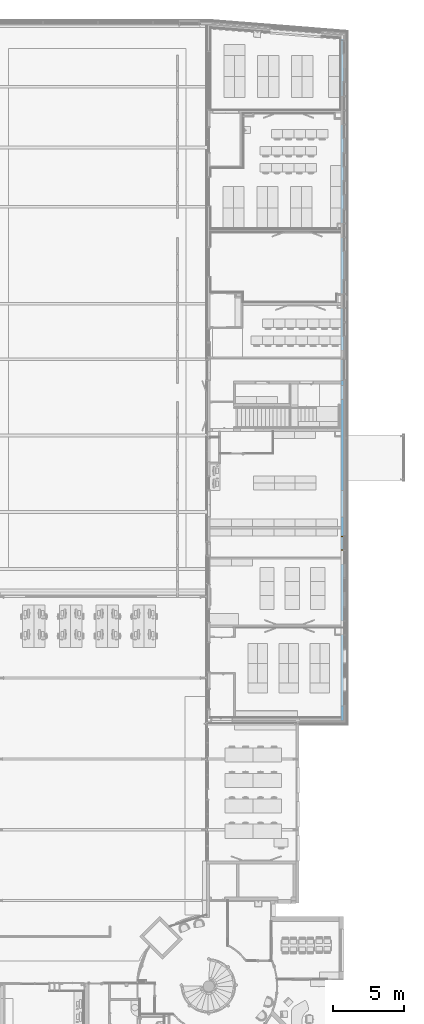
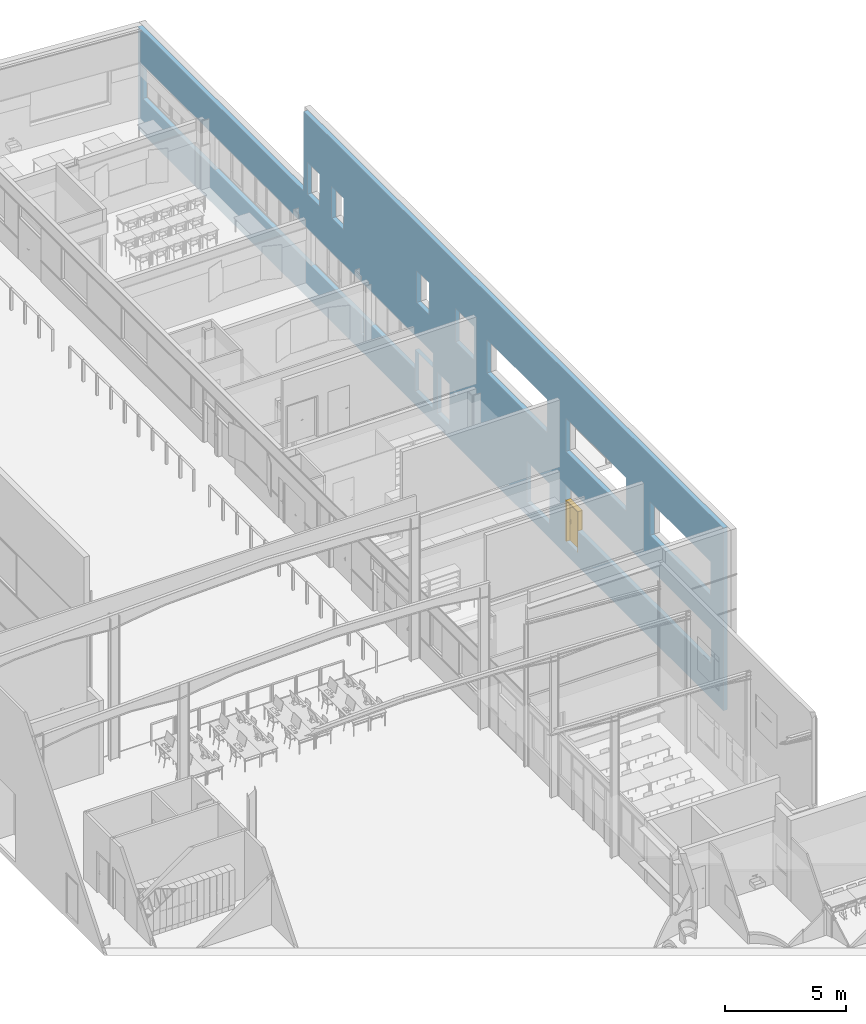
# One storey, part 102 of 137: 1 door, 4 openings, plus 1 element that does not belong to this part.
"""IFC2X3 building model written with IfcOpenShell, lengths in centimetres."""

from ifc_helpers import new_model, entity, si_unit, converted_unit, derived_unit, direction, frame, frame_2d, origin, place, context, subcontext, project, spatial, rectangle, extrude, faceted_brep, source, transform, mapped, material, material_list, type_object, type_shapes, element, fill, save


model = new_model("IFC2X3")

# Units and contexts
model_context = context("Model", 3, precision=0.001, world=origin(), true_north=direction((6.12303176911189e-17, 1.0)))
body_context = subcontext(model_context, "Body", "Model", "MODEL_VIEW")
ifc_project = project(units=[si_unit("LENGTHUNIT", "METRE", prefix="CENTI"), si_unit("AREAUNIT", "SQUARE_METRE"), si_unit("VOLUMEUNIT", "CUBIC_METRE"), converted_unit("PLANEANGLEUNIT", "DEGREE", entity("IfcRatioMeasure", 0.0174532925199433), si_unit("PLANEANGLEUNIT", "RADIAN"), dimensions=[0, 0, 0, 0, 0, 0, 0]), si_unit("MASSUNIT", "GRAM", prefix="KILO"), si_unit("TIMEUNIT", "SECOND"), si_unit("FREQUENCYUNIT", "HERTZ"), si_unit("THERMODYNAMICTEMPERATUREUNIT", "DEGREE_CELSIUS"), derived_unit("THERMALTRANSMITTANCEUNIT", [(si_unit("MASSUNIT", "GRAM", prefix="KILO"), 1), (si_unit("THERMODYNAMICTEMPERATUREUNIT", "KELVIN"), -1), (si_unit("TIMEUNIT", "SECOND"), -3)]), derived_unit("VOLUMETRICFLOWRATEUNIT", [(si_unit("LENGTHUNIT", "METRE"), 3), (si_unit("TIMEUNIT", "SECOND"), -1)]), si_unit("ELECTRICCURRENTUNIT", "AMPERE"), si_unit("ELECTRICVOLTAGEUNIT", "VOLT"), si_unit("POWERUNIT", "WATT"), si_unit("FORCEUNIT", "NEWTON", prefix="KILO"), si_unit("ILLUMINANCEUNIT", "LUX"), si_unit("LUMINOUSFLUXUNIT", "LUMEN"), si_unit("LUMINOUSINTENSITYUNIT", "CANDELA"), derived_unit("USERDEFINED", [(si_unit("MASSUNIT", "GRAM", prefix="KILO"), -1), (si_unit("LENGTHUNIT", "METRE"), -2), (si_unit("TIMEUNIT", "SECOND"), 3), (si_unit("LUMINOUSFLUXUNIT", "LUMEN"), 1)]), derived_unit("LINEARVELOCITYUNIT", [(si_unit("LENGTHUNIT", "METRE"), 1), (si_unit("TIMEUNIT", "SECOND"), -1)]), si_unit("PRESSUREUNIT", "PASCAL"), derived_unit("USERDEFINED", [(si_unit("LENGTHUNIT", "METRE"), -2), (si_unit("MASSUNIT", "GRAM", prefix="KILO"), 1), (si_unit("TIMEUNIT", "SECOND"), -2)])], contexts=[model_context])

# Site, building, storey
site_placement = place(None, frame((8.62739174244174, -249.285249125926, 0.0)))
site = spatial("IfcSite", under=ifc_project, at=site_placement, Name="Default", CompositionType="ELEMENT")
building_placement = place(site_placement, origin())
building = spatial("IfcBuilding", under=site, at=building_placement, CompositionType="ELEMENT")
storey_placement = place(building_placement, origin())
storey = spatial("IfcBuildingStorey", under=building, at=storey_placement, Name="RDC", CompositionType="ELEMENT", Elevation=-8.82465566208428e-11)

# Wall, openings, door
ifc_material_1 = material(Name="Béton, coulé sur place, gris")
wall_type = type_object("IfcWallType", Name="Mur de base:BET 21", PredefinedType="NOTDEFINED")
wall_placement = place(storey_placement, frame((3988.90482781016, 2634.98020806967, -70.0), z_axis=(0.0, 0.0, 1.0), x_axis=(0.0, 1.0, 0.0)))
wall = element("IfcWall", 1, at=wall_placement, inside=storey, type_object=wall_type, material=ifc_material_1, Name="Mur de base:BET 21", ObjectType="Mur de base:BET 21", context=body_context, shape_type="Brep", body=[
    faceted_brep([(4814.40916101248, -10.0, 350.0), (4814.40916101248, -10.0, 180.0), (2558.0, -10.0, 180.0), (2558.0, -10.0, 278.0), (2407.0, -10.0, 278.0), (2407.0, -10.0, 350.0), (2223.0, -10.0, 691.0), (2223.0, -10.0, 521.0), (2068.0, -10.0, 521.0), (2068.0, -10.0, 691.0), (2236.48822441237, -10.0, 273.988224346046), (2236.48822441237, -10.0, 253.988224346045), (2205.51572422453, -10.0, 253.988224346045), (2205.51572422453, -10.0, 273.988224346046), (2408.0, -10.0, 70.0), (2408.0, -10.0, 85.0), (2408.0, -10.0, 277.0), (2557.0, -10.0, 277.0), (2557.0, -10.0, 85.0), (2557.0, -10.0, 70.0), (2372.0, -10.0, 277.499999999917), (2372.0, -10.0, 85.0), (2372.0, -10.0, 70.0), (2272.0, -10.0, 70.0), (2272.0, -10.0, 85.0), (2272.0, -10.0, 277.499999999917), (1629.20498529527, -10.0, 277.0), (1629.20498529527, -10.0, 85.0), (1629.20498529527, -10.0, 70.0), (1440.20498529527, -10.0, 70.0), (1440.20498529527, -10.0, 85.0), (1440.20498529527, -10.0, 277.0), (1305.204985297, -10.0, 277.499999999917), (1305.204985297, -10.0, 85.0), (1305.204985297, -10.0, 70.0), (1205.204985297, -10.0, 70.0), (1205.204985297, -10.0, 85.0), (1205.204985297, -10.0, 180.0), (104.204985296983, -10.0, 180.0), (104.204985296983, -10.0, 350.0), (1304.20498529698, -10.0, 350.0), (1304.20498529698, -10.0, 277.499999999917), (1961.60249267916, -10.0, 691.0), (1961.60249267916, -10.0, 521.0), (1461.60249267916, -10.0, 521.0), (1461.60249267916, -10.0, 691.0), (1306.70498529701, -10.0, 691.0), (1306.70498529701, -10.0, 521.0), (806.704985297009, -10.0, 521.0), (806.704985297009, -10.0, 691.0), (606.704985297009, -10.0, 691.0), (606.704985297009, -10.0, 521.0), (106.704985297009, -10.0, 521.0), (106.704985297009, -10.0, 691.0), (3448.0117757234, -10.0, 686.011775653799), (3448.0117757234, -10.0, 525.011775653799), (3348.0117757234, -10.0, 525.011775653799), (3348.0117757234, -10.0, 686.011775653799), (3006.0, -10.0, 170.207427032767), (3006.0, -10.0, 89.8417534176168), (2975.0, -10.0, 89.8417534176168), (2975.0, -10.0, 170.207427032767), (2543.0, -10.0, 686.5117756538), (2543.0, -10.0, 525.511775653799), (2443.0, -10.0, 525.511775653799), (2443.0, -10.0, 686.5117756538), (3480.0, -10.0, 925.0), (3448.0, -10.0, 925.0), (32.0, -10.0, 925.0), (0.0, -10.0, 925.0), (0.0, -10.0, 0.0), (4853.30717049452, -10.0, 0.0), (4853.30717049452, -10.0, 521.0), (3507.0, -10.0, 521.0), (3480.0, -10.0, 521.0), (3248.0117757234, -10.0, 686.011775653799), (3248.0117757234, -10.0, 525.011775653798), (3148.0117757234, -10.0, 525.011775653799), (3148.0117757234, -10.0, 686.011775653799), (2408.0, 10.0, 277.0), (2408.0, 10.0, 70.0), (2557.0, 10.0, 70.0), (2557.0, 10.0, 277.0), (2372.0, 10.0, 70.0), (2372.0, 10.0, 277.499999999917), (2272.0, 10.0, 277.499999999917), (2272.0, 10.0, 70.0), (1629.20498529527, 10.0, 70.0), (1629.20498529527, 10.0, 277.0), (1440.20498529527, 10.0, 277.0), (1440.20498529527, 10.0, 70.0), (1305.204985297, 10.0, 70.0), (1305.204985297, 10.0, 277.499999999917), (1304.20498529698, 10.0, 277.499999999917), (1304.20498529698, 10.0, 350.0), (104.204985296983, 10.0, 350.0), (104.204985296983, 10.0, 180.0), (1205.204985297, 10.0, 180.0), (1205.204985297, 10.0, 70.0), (4814.40916101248, 10.0, 180.0), (4814.40916101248, 10.0, 350.0), (2407.0, 10.0, 350.0), (2407.0, 10.0, 278.0), (2558.0, 10.0, 278.0), (2558.0, 10.0, 180.0), (2223.0, 10.0, 521.0), (2223.0, 10.0, 691.0), (2068.0, 10.0, 691.0), (2068.0, 10.0, 521.0), (0.0, 10.0, 925.0), (20.0, 10.0, 925.0), (3460.0, 10.0, 925.0), (3480.0, 10.0, 925.0), (3480.0, 10.0, 521.0), (4834.82616616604, 10.0, 521.0), (4854.88859101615, 10.0, 521.0), (4854.88859101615, 10.0, 0.0), (4834.82616616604, 10.0, 0.0), (2960.0, 10.0, 0.0), (2940.0, 10.0, 0.0), (2403.0, 10.0, 0.0), (2383.0, 10.0, 0.0), (2068.0, 10.0, 0.0), (2048.0, 10.0, 0.0), (1375.20498529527, 10.0, 0.0), (1355.20498529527, 10.0, 0.0), (0.0, 10.0, 0.0), (2236.48822441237, 10.0, 253.988224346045), (2236.48822441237, 10.0, 273.988224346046), (2205.51572422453, 10.0, 273.988224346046), (2205.51572422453, 10.0, 253.988224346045), (1961.60249267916, 10.0, 521.0), (1961.60249267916, 10.0, 691.0), (1461.60249267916, 10.0, 691.0), (1461.60249267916, 10.0, 521.0), (1306.70498529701, 10.0, 521.0), (1306.70498529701, 10.0, 691.0), (806.704985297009, 10.0, 691.0), (806.704985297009, 10.0, 521.0), (606.704985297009, 10.0, 521.0), (606.704985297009, 10.0, 691.0), (106.704985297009, 10.0, 691.0), (106.704985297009, 10.0, 521.0), (3448.0117757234, 10.0, 525.011775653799), (3448.0117757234, 10.0, 686.011775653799), (3348.0117757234, 10.0, 686.011775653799), (3348.0117757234, 10.0, 525.011775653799), (3006.0, 10.0, 89.8417534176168), (3006.0, 10.0, 170.207427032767), (2975.0, 10.0, 170.207427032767), (2975.0, 10.0, 89.8417534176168), (2543.0, 10.0, 525.511775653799), (2543.0, 10.0, 686.5117756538), (2443.0, 10.0, 686.5117756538), (2443.0, 10.0, 525.511775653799), (3248.0117757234, 10.0, 525.011775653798), (3248.0117757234, 10.0, 686.011775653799), (3148.0117757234, 10.0, 686.011775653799), (3148.0117757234, 10.0, 525.011775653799)], [[[0, 1, 2, 3, 4, 5], [6, 7, 8, 9], [10, 11, 12, 13], [14, 15, 16, 17, 18, 19], [20, 21, 22, 23, 24, 25], [26, 27, 28, 29, 30, 31], [32, 33, 34, 35, 36, 37, 38, 39, 40, 41], [42, 43, 44, 45], [46, 47, 48, 49], [50, 51, 52, 53], [54, 55, 56, 57], [58, 59, 60, 61], [62, 63, 64, 65], [66, 67, 68, 69, 70, 71, 72, 73, 74], [75, 76, 77, 78]], [[79, 80, 81, 82], [83, 84, 85, 86], [87, 88, 89, 90], [91, 92, 93, 94, 95, 96, 97, 98], [99, 100, 101, 102, 103, 104], [105, 106, 107, 108], [109, 110, 111, 112, 113, 114, 115, 116, 117, 118, 119, 120, 121, 122, 123, 124, 125, 126], [127, 128, 129, 130], [131, 132, 133, 134], [135, 136, 137, 138], [139, 140, 141, 142], [143, 144, 145, 146], [147, 148, 149, 150], [151, 152, 153, 154], [155, 156, 157, 158]], [[14, 80, 79, 16, 15]], [[16, 79, 82, 17]], [[81, 19, 18, 17, 82]], [[80, 14, 19, 81]], [[83, 22, 21, 20, 84]], [[84, 20, 25, 85]], [[23, 86, 85, 25, 24]], [[22, 83, 86, 23]], [[87, 28, 27, 26, 88]], [[88, 26, 31, 89]], [[29, 90, 89, 31, 30]], [[28, 87, 90, 29]], [[35, 98, 97, 37, 36]], [[92, 32, 41, 93]], [[91, 34, 33, 32, 92]], [[98, 35, 34, 91]], [[69, 68, 67, 66, 112, 111, 110, 109]], [[70, 69, 109, 126]], [[74, 73, 72, 115, 114, 113]], [[66, 74, 113, 112]], [[99, 1, 0, 100]], [[100, 0, 5, 101]], [[101, 5, 4, 102]], [[102, 4, 3, 103]], [[40, 94, 93, 41]], [[94, 40, 39, 95]], [[95, 39, 38, 96]], [[96, 38, 37, 97]], [[103, 3, 2, 104]], [[1, 99, 104, 2]], [[105, 7, 6, 106]], [[106, 6, 9, 107]], [[107, 9, 8, 108]], [[7, 105, 108, 8]], [[11, 10, 128, 127]], [[12, 11, 127, 130]], [[13, 12, 130, 129]], [[10, 13, 129, 128]], [[71, 70, 126, 125, 124, 123, 122, 121, 120, 119, 118, 117, 116]], [[131, 43, 42, 132]], [[132, 42, 45, 133]], [[133, 45, 44, 134]], [[43, 131, 134, 44]], [[135, 47, 46, 136]], [[136, 46, 49, 137]], [[137, 49, 48, 138]], [[47, 135, 138, 48]], [[139, 51, 50, 140]], [[140, 50, 53, 141]], [[141, 53, 52, 142]], [[51, 139, 142, 52]], [[72, 71, 116, 115]], [[55, 54, 144, 143]], [[56, 55, 143, 146]], [[57, 56, 146, 145]], [[54, 57, 145, 144]], [[59, 58, 148, 147]], [[60, 59, 147, 150]], [[61, 60, 150, 149]], [[58, 61, 149, 148]], [[63, 62, 152, 151]], [[64, 63, 151, 154]], [[65, 64, 154, 153]], [[62, 65, 153, 152]], [[76, 75, 156, 155]], [[77, 76, 155, 158]], [[78, 77, 158, 157]], [[75, 78, 157, 156]]], outer=[[False, False, False, False, False, False, False, False, False, False, False, False, False, True, False], [False, False, False, False, False, False, True, False, False, False, False, False, False, False, False], [True], [True], [True], [True], [True], [True], [True], [True], [True], [True], [True], [True], [True], [True], [True], [True], [True], [True], [True], [True], [True], [True], [True], [True], [True], [True], [True], [True], [True], [True], [True], [True], [True], [True], [True], [True], [True], [True], [True], [True], [True], [True], [True], [True], [True], [True], [True], [True], [True], [True], [True], [True], [True], [True], [True], [True], [True], [True], [True], [True], [True], [True], [True], [True], [True], [True], [True], [True]]),
])
opening_1_placement = place(wall_placement, frame((2557.0, 10.0, 70.0)))
element("IfcOpeningElement", 2, at=opening_1_placement, cuts=wall, Name="Tierce(R)_bois_mu:143 x 204 cm:1", ObjectType="Opening", context=body_context, shape_type="SweptSolid", body=[
    extrude(rectangle(XDim=206.999999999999, YDim=149.0, at=frame_2d((103.499999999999, 74.4999999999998), x_axis=(1.0, 0.0))), frame((0.0, 0.0, 0.0), z_axis=(0.0, -1.0, 0.0), x_axis=(0.0, 0.0, 1.0)), (0.0, 0.0, 1.0), 20.0),
])
opening_2_placement = place(wall_placement, frame((2372.0, 10.0, 70.0)))
element("IfcOpeningElement", 3, at=opening_2_placement, cuts=wall, Name="Simple(R)_bois_mu:93 x 204 cm:1", ObjectType="Opening", context=body_context, shape_type="SweptSolid", body=[
    extrude(rectangle(XDim=207.499999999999, YDim=99.9999999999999, at=frame_2d((103.749999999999, 49.9999999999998), x_axis=(1.0, 0.0))), frame((0.0, 0.0, 0.0), z_axis=(0.0, -1.0, 0.0), x_axis=(0.0, 0.0, 1.0)), (0.0, 0.0, 1.0), 20.0),
])
opening_3_placement = place(wall_placement, frame((1629.20498529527, 10.0, 70.0)))
element("IfcOpeningElement", 4, at=opening_3_placement, cuts=wall, Name="Double(R)_bois_mu:183 x 204 cm:1", ObjectType="Opening", context=body_context, shape_type="SweptSolid", body=[
    extrude(rectangle(XDim=206.999999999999, YDim=189.0, at=frame_2d((103.499999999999, 94.5000000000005), x_axis=(1.0, 0.0))), frame((0.0, 0.0, 0.0), z_axis=(0.0, -1.0, 0.0), x_axis=(0.0, 0.0, 1.0)), (0.0, 0.0, 1.0), 20.0),
])
opening_4_placement = place(wall_placement, frame((1305.204985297, 10.0, 70.0)))
opening_4 = element("IfcOpeningElement", 5, at=opening_4_placement, cuts=wall, Name="Simple(R)_bois_mu:93 x 204 cm:1", ObjectType="Opening", context=body_context, shape_type="SweptSolid", body=[
    extrude(rectangle(XDim=207.499999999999, YDim=99.9999999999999, at=frame_2d((103.749999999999, 50.0), x_axis=(1.0, 0.0))), frame((0.0, 0.0, 0.0), z_axis=(0.0, -1.0, 0.0), x_axis=(0.0, 0.0, 1.0)), (0.0, 0.0, 1.0), 20.0),
])
ifc_material_2 = material(Name="Porte - Poignée")
ifc_material_3 = material(Name="Porte - Cadre")
ifc_material_4 = material(Name="Porte - Panneau")
ifc_material_list_1 = material_list([ifc_material_2, ifc_material_3, ifc_material_4])
ifc_material_list_2 = material_list([ifc_material_2, ifc_material_3, ifc_material_4])
door_style = type_object("IfcDoorStyle", Name="93 x 204 cm", ConstructionType="NOTDEFINED", OperationType="SINGLE_SWING_LEFT", ParameterTakesPrecedence=False, Sizeable=False, material=ifc_material_list_2)
shared_shape = source(origin(), body_context, "Body", "Brep", [
    faceted_brep([(92.2025298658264, 3.69999999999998, 100.778044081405), (91.7974701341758, 3.69999999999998, 100.778044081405), (91.3999999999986, 3.69999999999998, 100.699999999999), (91.4000000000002, 3.69999999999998, 99.3000000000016), (91.7974701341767, 3.69999999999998, 99.2219559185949), (92.2025298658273, 3.69999999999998, 99.2219559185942), (92.6000000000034, 3.69999999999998, 99.2999999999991), (92.600000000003, 3.69999999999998, 100.699999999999), (91.3999999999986, 5.94852045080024, 100.699999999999), (91.3999999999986, 5.94852045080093, 99.3000000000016), (91.7974701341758, 6.1131579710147, 100.778044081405), (92.2025298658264, 6.2809392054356, 100.778044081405), (90.5838906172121, 7.89957845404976, 100.778044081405), (90.4161093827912, 7.49451872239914, 100.778044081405), (82.0793122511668, 7.49451872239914, 100.778044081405), (81.911531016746, 7.89957845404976, 100.778044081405), (81.1451046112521, 7.13315204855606, 100.778044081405), (81.4315250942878, 6.84673156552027, 100.778044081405), (92.600000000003, 6.44557672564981, 100.699999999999), (92.6000000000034, 6.44557672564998, 99.2999999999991), (92.2025298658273, 6.28093920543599, 99.2219559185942), (91.7974701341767, 6.11315797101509, 99.2219559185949), (90.4161093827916, 7.49451872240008, 99.2219559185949), (90.5838906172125, 7.8995784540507, 99.2219559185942), (81.9115310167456, 7.8995784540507, 99.2219559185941), (82.0793122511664, 7.49451872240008, 99.2219559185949), (81.4315250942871, 6.84673156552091, 99.2219559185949), (81.1451046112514, 7.13315204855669, 99.2219559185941), (90.2514718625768, 7.09704858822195, 100.699999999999), (90.2514718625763, 7.09704858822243, 99.3000000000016), (90.7485281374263, 8.29704858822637, 100.699999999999), (90.7485281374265, 8.29704858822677, 99.2999999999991), (86.247710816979, 7.09704858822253, 100.699999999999), (82.2439497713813, 7.09704858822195, 100.699999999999), (82.2439497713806, 7.09704858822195, 99.3000000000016), (86.247710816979, 7.09704858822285, 99.3000000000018), (86.2477108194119, 7.71249275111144, 100.787811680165), (85.7399422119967, 8.29704858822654, 100.699999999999), (81.7468934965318, 8.29704858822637, 100.699999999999), (86.7554791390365, 8.29704858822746, 99.2999999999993), (81.7468934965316, 8.29704858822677, 99.2999999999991), (86.2477107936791, 7.71249274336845, 99.2121883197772), (80.8640507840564, 7.41420587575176, 100.699999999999), (80.8640507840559, 7.41420587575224, 99.2999999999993), (81.7125789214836, 6.5656777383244, 99.3000000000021), (81.7125789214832, 6.56567773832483, 100.699999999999)], [[[0, 1, 2, 3, 4, 5, 6, 7]], [[8, 9, 3, 2]], [[1, 10, 8, 2]], [[1, 0, 11, 12, 13, 10]], [[14, 15, 16, 17]], [[7, 18, 11, 0]], [[18, 7, 6, 19]], [[6, 5, 20, 19]], [[5, 4, 21, 22, 23, 20]], [[24, 25, 26, 27]], [[4, 3, 9, 21]], [[28, 29, 9, 8]], [[8, 10, 13, 28]], [[18, 30, 12, 11]], [[31, 30, 18, 19]], [[19, 20, 23, 31]], [[21, 9, 29, 22]], [[29, 28, 32, 33, 34, 35]], [[36, 32, 13]], [[37, 38, 15]], [[37, 12, 30]], [[36, 12, 37]], [[14, 32, 36]], [[36, 15, 14]], [[28, 13, 32]], [[32, 14, 33]], [[12, 36, 13]], [[15, 36, 37]], [[30, 31, 39, 40, 38, 37]], [[23, 41, 39]], [[24, 39, 41]], [[39, 31, 23]], [[39, 24, 40]], [[22, 35, 41]], [[41, 23, 22]], [[41, 35, 25]], [[35, 22, 29]], [[34, 25, 35]], [[24, 41, 25]], [[17, 16, 42, 43, 27, 26, 44, 45]], [[45, 44, 34, 33]], [[33, 14, 17, 45]], [[15, 38, 42, 16]], [[43, 42, 38, 40]], [[24, 27, 43, 40]], [[34, 44, 26, 25]]]),
    faceted_brep([(91.7974701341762, -1.30000000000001, 100.778044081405), (92.2025298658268, -1.30000000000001, 100.778044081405), (92.6000000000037, -1.30000000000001, 100.699999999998), (92.6000000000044, -1.30000000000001, 99.2999999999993), (92.2025298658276, -1.30000000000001, 99.2219559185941), (91.797470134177, -1.30000000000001, 99.2219559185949), (91.3999999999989, -1.30000000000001, 99.3000000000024), (91.3999999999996, -1.30000000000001, 100.699999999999), (92.2025298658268, -3.90045754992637, 100.778044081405), (92.6000000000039, -4.06509507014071, 100.699999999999), (91.7974701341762, -3.73267631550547, 100.778044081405), (90.4298602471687, -5.10028620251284, 100.778044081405), (90.5976414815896, -5.50534593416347, 100.778044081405), (81.9142453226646, -5.50534593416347, 100.778044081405), (82.0820265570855, -5.10028620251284, 100.778044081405), (81.4342394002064, -4.4524990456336, 100.778044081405), (81.1478189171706, -4.73891952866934, 100.778044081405), (91.3999999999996, -3.56803879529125, 100.699999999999), (91.3999999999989, -3.56803879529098, 99.3000000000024), (91.797470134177, -3.7326763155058, 99.2219559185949), (92.2025298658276, -3.9004575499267, 99.2219559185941), (90.5976414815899, -5.50534593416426, 99.2219559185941), (90.429860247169, -5.10028620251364, 99.2219559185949), (82.0820265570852, -5.10028620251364, 99.2219559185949), (81.9142453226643, -5.50534593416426, 99.2219559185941), (81.14781891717, -4.73891952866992, 99.2219559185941), (81.4342394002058, -4.45249904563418, 99.2219559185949), (92.6000000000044, -4.06509507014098, 99.2999999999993), (90.762279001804, -5.90281606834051, 100.699999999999), (90.2652227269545, -4.70281606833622, 100.699999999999), (90.2652227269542, -4.70281606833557, 99.3000000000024), (90.7622790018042, -5.90281606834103, 99.2999999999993), (86.2559433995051, -5.31828027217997, 100.787811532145), (86.769230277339, -5.90281606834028, 100.699999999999), (81.7496078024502, -5.90281606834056, 100.699999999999), (86.255943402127, -4.70281606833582, 100.699999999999), (82.2466640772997, -4.70281606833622, 100.699999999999), (86.2559436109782, -4.70281606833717, 99.3000000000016), (82.2466640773, -4.70281606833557, 99.3000000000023), (86.2559434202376, -5.31828027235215, 99.2121884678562), (85.7426572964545, -5.90281606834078, 99.2999999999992), (81.74960780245, -5.90281606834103, 99.2999999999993), (81.7152932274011, -4.17144521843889, 99.3000000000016), (80.8667650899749, -5.01997335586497, 99.2999999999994), (80.8667650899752, -5.01997335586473, 100.699999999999), (81.7152932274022, -4.17144521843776, 100.699999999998)], [[[0, 1, 2, 3, 4, 5, 6, 7]], [[2, 1, 8, 9]], [[1, 0, 10, 11, 12, 8]], [[13, 14, 15, 16]], [[0, 7, 17, 10]], [[18, 17, 7, 6]], [[5, 19, 18, 6]], [[5, 4, 20, 21, 22, 19]], [[23, 24, 25, 26]], [[3, 27, 20, 4]], [[9, 27, 3, 2]], [[9, 8, 12, 28]], [[10, 17, 29, 11]], [[30, 29, 17, 18]], [[18, 19, 22, 30]], [[20, 27, 31, 21]], [[28, 31, 27, 9]], [[12, 32, 33]], [[13, 33, 32]], [[33, 28, 12]], [[33, 13, 34]], [[11, 35, 32]], [[32, 12, 11]], [[32, 35, 14]], [[35, 11, 29]], [[36, 14, 35]], [[13, 32, 14]], [[29, 30, 37, 38, 36, 35]], [[39, 37, 22]], [[40, 41, 24]], [[40, 21, 31]], [[39, 21, 40]], [[23, 37, 39]], [[39, 24, 23]], [[30, 22, 37]], [[37, 23, 38]], [[21, 39, 22]], [[24, 39, 40]], [[31, 28, 33, 34, 41, 40]], [[42, 26, 25, 43, 44, 16, 15, 45]], [[13, 16, 44, 34]], [[36, 45, 15, 14]], [[42, 45, 36, 38]], [[38, 23, 26, 42]], [[24, 41, 43, 25]], [[44, 43, 41, 34]]]),
    faceted_brep([(92.0, 3.19999999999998, 86.4641016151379), (93.0352761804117, 3.19999999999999, 86.6003983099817), (94.0, 3.19999999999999, 87.0), (94.0, 3.19999999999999, 108.0), (93.0352761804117, 3.19999999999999, 108.399601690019), (92.0, 3.19999999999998, 108.535898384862), (90.9647238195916, 3.19999999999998, 108.399601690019), (90.0, 3.19999999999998, 108.0), (90.0, 3.19999999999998, 87.0), (90.9647238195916, 3.19999999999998, 86.6003983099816), (92.0, 3.69999999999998, 108.535898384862), (93.0352761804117, 3.69999999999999, 108.399601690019), (94.0, 3.69999999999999, 108.0), (94.0, 3.69999999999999, 87.0), (93.0352761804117, 3.69999999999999, 86.6003983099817), (92.0, 3.69999999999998, 86.4641016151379), (90.9647238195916, 3.69999999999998, 86.6003983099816), (90.0, 3.69999999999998, 87.0), (90.0, 3.69999999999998, 108.0), (90.9647238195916, 3.69999999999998, 108.399601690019)], [[[0, 1, 2, 3, 4, 5, 6, 7, 8, 9]], [[10, 11, 12, 13, 14, 15, 16, 17, 18, 19]], [[6, 19, 18, 7]], [[5, 10, 19, 6]], [[4, 11, 10, 5]], [[4, 3, 12, 11]], [[12, 3, 2, 13]], [[1, 14, 13, 2]], [[0, 15, 14, 1]], [[9, 16, 15, 0]], [[9, 8, 17, 16]], [[17, 8, 7, 18]]]),
    faceted_brep([(92.0, -1.30000000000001, 86.4641016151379), (93.0352761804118, -1.30000000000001, 86.6003983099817), (94.0, -1.30000000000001, 87.0), (94.0, -1.30000000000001, 108.0), (93.0352761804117, -1.30000000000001, 108.399601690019), (92.0, -1.30000000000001, 108.535898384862), (90.9647238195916, -1.30000000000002, 108.399601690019), (90.0, -1.30000000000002, 108.0), (90.0, -1.30000000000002, 87.0), (90.9647238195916, -1.30000000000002, 86.6003983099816), (94.0, -0.800000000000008, 108.0), (94.0, -0.800000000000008, 87.0), (93.0352761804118, -0.800000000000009, 86.6003983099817), (92.0, -0.800000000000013, 86.4641016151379), (90.9647238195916, -0.800000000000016, 86.6003983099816), (90.0, -0.800000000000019, 87.0), (90.0, -0.800000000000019, 108.0), (90.9647238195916, -0.800000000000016, 108.399601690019), (92.0, -0.800000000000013, 108.535898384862), (93.0352761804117, -0.800000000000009, 108.399601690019)], [[[0, 1, 2, 3, 4, 5, 6, 7, 8, 9]], [[10, 11, 12, 13, 14, 15, 16, 17, 18, 19]], [[1, 12, 11, 2]], [[0, 13, 12, 1]], [[9, 14, 13, 0]], [[9, 8, 15, 14]], [[15, 8, 7, 16]], [[6, 17, 16, 7]], [[5, 18, 17, 6]], [[4, 19, 18, 5]], [[4, 3, 10, 19]], [[10, 3, 2, 11]]]),
    faceted_brep([(101.0, 0.0, 0.0), (102.0, 0.0, 0.0), (102.0, -0.799999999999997, 0.0), (97.5000000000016, -0.799999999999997, 0.0), (97.5000000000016, 3.2, 0.0), (96.5000000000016, 3.2, 0.0), (96.5000000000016, 20.8000000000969, 0.0), (102.0, 20.8000000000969, 0.0), (102.0, 20.0, 0.0), (101.0, 20.0, 0.0), (101.0, 20.0, 207.499999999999), (101.0, 0.0, 207.499999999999), (102.0, 20.0, 208.499999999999), (0.0, 20.0, 208.499999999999), (0.0, 20.0, 0.0), (1.0, 20.0, 0.0), (1.0, 20.0, 207.499999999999), (102.0, 20.8000000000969, 208.499999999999), (96.5000000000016, 20.8000000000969, 203.0), (5.50000000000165, 20.8000000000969, 203.0), (5.50000000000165, 20.8000000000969, 0.0), (0.0, 20.8000000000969, 0.0), (0.0, 20.8000000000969, 208.499999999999), (96.5000000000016, 3.2, 203.0), (97.5000000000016, 3.2, 204.0), (4.50000000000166, 3.2, 204.0), (4.50000000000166, 3.2, 0.0), (5.50000000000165, 3.2, 0.0), (5.50000000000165, 3.2, 203.0), (97.5000000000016, -0.799999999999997, 204.0), (102.0, -0.799999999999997, 208.499999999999), (0.0, -0.799999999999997, 208.499999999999), (0.0, -0.799999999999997, 0.0), (4.50000000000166, -0.799999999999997, 0.0), (4.50000000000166, -0.799999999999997, 204.0), (102.0, 0.0, 208.499999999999), (1.0, 0.0, 207.499999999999), (1.0, 0.0, 0.0), (0.0, 0.0, 0.0), (0.0, 0.0, 208.499999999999)], [[[0, 1, 2, 3, 4, 5, 6, 7, 8, 9]], [[9, 10, 11, 0]], [[8, 12, 13, 14, 15, 16, 10, 9]], [[7, 17, 12, 8]], [[6, 18, 19, 20, 21, 22, 17, 7]], [[5, 23, 18, 6]], [[4, 24, 25, 26, 27, 28, 23, 5]], [[3, 29, 24, 4]], [[2, 30, 31, 32, 33, 34, 29, 3]], [[1, 35, 30, 2]], [[0, 11, 36, 37, 38, 39, 35, 1]], [[16, 15, 37, 36]], [[37, 15, 14, 21, 20, 27, 26, 33, 32, 38]], [[22, 21, 14, 13]], [[28, 27, 20, 19]], [[34, 33, 26, 25]], [[39, 38, 32, 31]], [[10, 16, 36, 11]], [[17, 22, 13, 12]], [[23, 28, 19, 18]], [[29, 34, 25, 24]], [[35, 39, 31, 30]]]),
    faceted_brep([(97.5000000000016, -0.799999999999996, 204.0), (4.50000000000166, -0.799999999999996, 204.0), (4.50000000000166, -0.799999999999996, 0.0), (97.5000000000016, -0.799999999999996, 0.0), (97.5000000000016, 3.2, 204.0), (97.5000000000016, 3.2, 0.0), (4.50000000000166, 3.2, 0.0), (4.50000000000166, 3.2, 204.0)], [[[0, 1, 2, 3]], [[4, 5, 6, 7]], [[3, 5, 4, 0]], [[2, 6, 5, 3]], [[1, 7, 6, 2]], [[0, 4, 7, 1]]]),
])
type_shapes(door_style, [shared_shape])
door_placement = place(opening_4_placement, frame((-101.0, -20.0, 0.0)))
door = element("IfcDoor", 6, at=door_placement, inside=storey, type_object=door_style, material=ifc_material_list_1, Name="Simple(R)_bois_mu:93 x 204 cm", ObjectType="93 x 204 cm", OverallHeight=207.499999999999, OverallWidth=99.9999999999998, context=body_context, shape_type="MappedRepresentation", body=[
    mapped(shared_shape, transform((0.0, 0.0, 0.0), scale=1.0)),
])
fill(opening_4, door)

save(model, "model.ifc")
